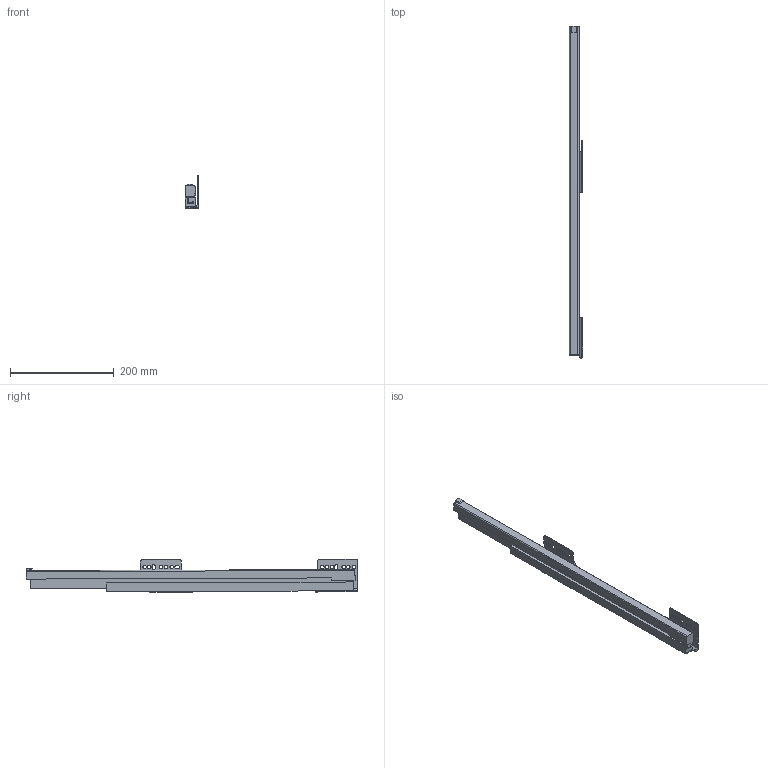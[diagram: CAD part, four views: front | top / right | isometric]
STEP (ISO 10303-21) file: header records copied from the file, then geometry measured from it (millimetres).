
FILE_DESCRIPTION (( 'STEP AP214' ), '1' );
FILE_NAME ('_IMOS_NOVA-Pro_KS_P904_RE_NL650_EB29.step', '2010-07-06T07:17:58', ( 'grass' ), ( '' ), 'SwSTEP 2.0', 'SolidWorks 2009', '' );
FILE_SCHEMA (( 'AUTOMOTIVE_DESIGN' ));
Length unit declared in the file: millimetre
Products named in the file (1): _IMOS_NOVA-Pro_KS_P904_RE_NL650_EB29
Bounding box: 26.75 x 640.31 x 64.46 mm (x, y, z)
Volume: 465376.4 mm3; surface area: 191658.8 mm2
Topology: 6 solids, 6 shells, 144 faces, 392 edges, 260 vertices
Faces by surface type: plane 89, cylinder 55
Entity records: 4691 total; most frequent: CARTESIAN_POINT 848, ORIENTED_EDGE 784, DIRECTION 765, EDGE_CURVE 392, LINE 275, VECTOR 275, VERTEX_POINT 260, AXIS2_PLACEMENT_3D 245
